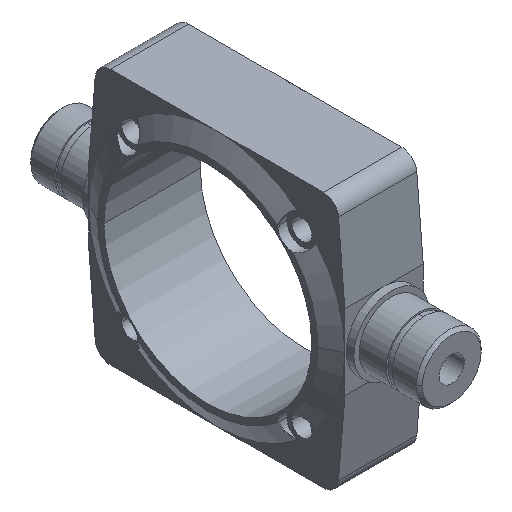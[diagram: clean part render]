
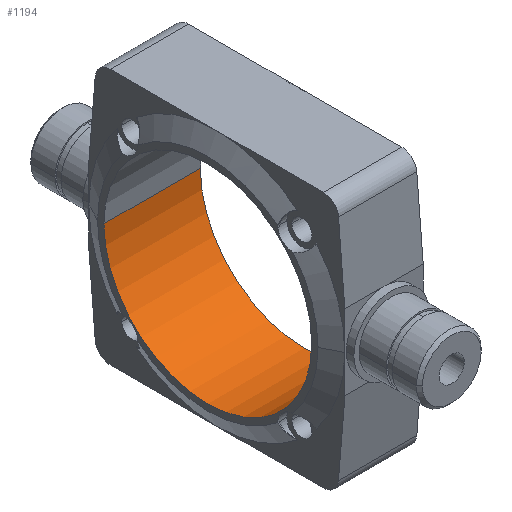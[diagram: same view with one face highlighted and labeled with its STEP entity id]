
A CAD part, isometric view. The second image highlights one B-rep face of the part: STEP entity #1194.
In plain terms, the highlighted cylindrical face has radius 34.5 mm (diameter 69 mm), a partial arc.
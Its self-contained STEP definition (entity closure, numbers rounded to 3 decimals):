
#1155=CARTESIAN_POINT('Axis2P3D Location',(0.,0.,0.)) ;
#1160=CARTESIAN_POINT('Axis2P3D Location',(16.,0.,0.)) ;
#1164=CARTESIAN_POINT('Vertex',(16.,-34.5,0.)) ;
#1166=CARTESIAN_POINT('Vertex',(16.,34.5,0.)) ;
#1169=CARTESIAN_POINT('Line Origine',(1.5,34.5,0.)) ;
#1173=CARTESIAN_POINT('Vertex',(-16.,34.5,0.)) ;
#1176=CARTESIAN_POINT('Axis2P3D Location',(-16.,0.,0.)) ;
#1180=CARTESIAN_POINT('Vertex',(-16.,-34.5,0.)) ;
#1183=CARTESIAN_POINT('Line Origine',(1.5,-34.5,0.)) ;
#1156=DIRECTION('Axis2P3D Direction',(1.,0.,0.)) ;
#1157=DIRECTION('Axis2P3D XDirection',(0.,1.,0.)) ;
#1161=DIRECTION('Axis2P3D Direction',(1.,0.,0.)) ;
#1170=DIRECTION('Vector Direction',(1.,0.,0.)) ;
#1177=DIRECTION('Axis2P3D Direction',(1.,0.,0.)) ;
#1184=DIRECTION('Vector Direction',(1.,0.,0.)) ;
#1158=AXIS2_PLACEMENT_3D('Cylinder Axis2P3D',#1155,#1156,#1157) ;
#1162=AXIS2_PLACEMENT_3D('Circle Axis2P3D',#1160,#1161,$) ;
#1178=AXIS2_PLACEMENT_3D('Circle Axis2P3D',#1176,#1177,$) ;
#1189=ORIENTED_EDGE('',*,*,#1168,.T.) ;
#1190=ORIENTED_EDGE('',*,*,#1175,.T.) ;
#1191=ORIENTED_EDGE('',*,*,#1182,.F.) ;
#1192=ORIENTED_EDGE('',*,*,#1187,.F.) ;
#1171=VECTOR('Line Direction',#1170,1.) ;
#1185=VECTOR('Line Direction',#1184,1.) ;
#1194=ADVANCED_FACE('PartBody',(#1193),#1159,.F.) ;
#1163=CIRCLE('generated circle',#1162,34.5) ;
#1179=CIRCLE('generated circle',#1178,34.5) ;
#1159=CYLINDRICAL_SURFACE('generated cylinder',#1158,34.5) ;
#1168=EDGE_CURVE('',#1165,#1167,#1163,.T.) ;
#1175=EDGE_CURVE('',#1167,#1174,#1172,.F.) ;
#1182=EDGE_CURVE('',#1181,#1174,#1179,.T.) ;
#1187=EDGE_CURVE('',#1165,#1181,#1186,.F.) ;
#1188=EDGE_LOOP('',(#1189,#1190,#1191,#1192)) ;
#1193=FACE_OUTER_BOUND('',#1188,.T.) ;
#1172=LINE('Line',#1169,#1171) ;
#1186=LINE('Line',#1183,#1185) ;
#1165=VERTEX_POINT('',#1164) ;
#1167=VERTEX_POINT('',#1166) ;
#1174=VERTEX_POINT('',#1173) ;
#1181=VERTEX_POINT('',#1180) ;
